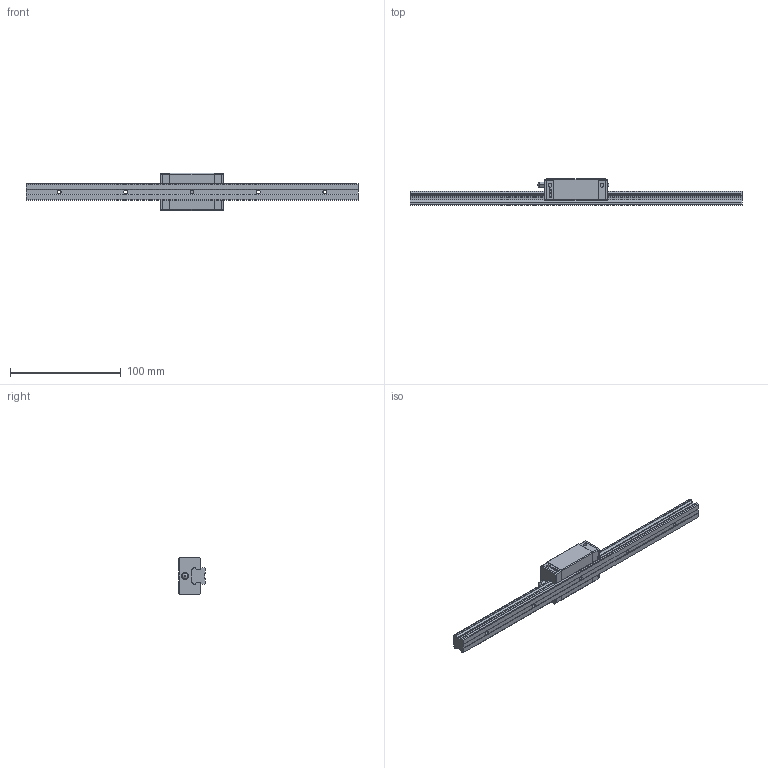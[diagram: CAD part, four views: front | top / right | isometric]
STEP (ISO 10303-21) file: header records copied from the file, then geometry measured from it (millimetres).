
FILE_DESCRIPTION(/* description */ (''),/* implementation_level */ '2;1');
FILE_NAME(/* name */ 'D:\3D網頁資料庫\Download\3D\EGH15CA1R300Z0C_GW202101009162\EGH15CA1R300Z0C_GW202101009162.stp',/* time_stamp */ '2021-01-20T14:58:22+08:00',/* author */ ('tim.lin'),/* organization */ (''),/* preprocessor_version */ 'ST-DEVELOPER v16.13',/* originating_system */ 'Autodesk Inventor 2018',/* authorisation */ '');
FILE_SCHEMA (('AUTOMOTIVE_DESIGN { 1 0 10303 214 3 1 1 }'));
Length unit declared in the file: millimetre
Products named in the file (5): EGH15CA1R300Z0C_GW202101009162; EGR15_temp-1; EGH15C_右封_temp; 34310002; M4H
Assembly tree (4 placements, depth 2):
  EGH15CA1R300Z0C_GW202101009162
    EGR15_temp-1
    EGH15C_右封_temp
    34310002
    M4H
Bounding box: 300 x 24 x 34 mm (x, y, z)
Volume: 78596.2 mm3; surface area: 31270.3 mm2
Topology: 8 solids, 8 shells, 776 faces, 2073 edges, 1353 vertices
Faces by surface type: plane 509, cylinder 179, bspline 58, cone 28, sphere 2
Full cylindrical faces by diameter (mm): 1 x2, 3.242 x4, 3.35 x4, 3.5 x5, 4 x6, 5.3 x2, 5.5 x1, 6 x5, 6.5 x2
Entity records: 25383 total; most frequent: CARTESIAN_POINT 5975, ORIENTED_EDGE 4078, DIRECTION 3778, EDGE_CURVE 2039, LINE 1528, VECTOR 1528, VERTEX_POINT 1350, AXIS2_PLACEMENT_3D 1125
